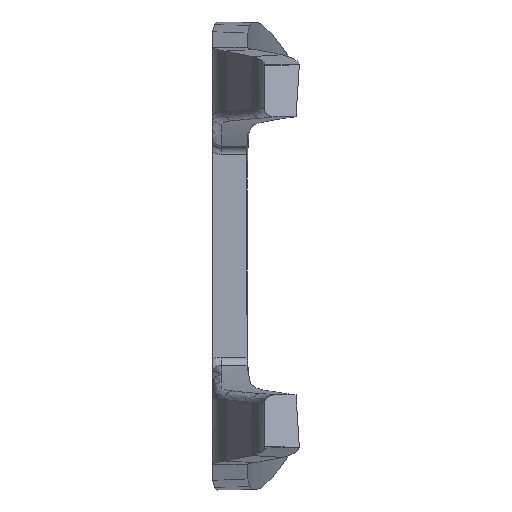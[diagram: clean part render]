
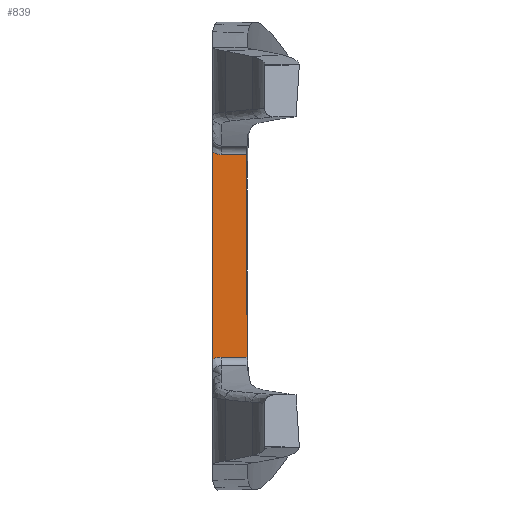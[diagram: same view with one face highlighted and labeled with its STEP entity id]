
A CAD part, left-side view. The second image highlights one B-rep face of the part: STEP entity #839.
In plain terms, the highlighted planar face has unit normal (-1, 0, 0).
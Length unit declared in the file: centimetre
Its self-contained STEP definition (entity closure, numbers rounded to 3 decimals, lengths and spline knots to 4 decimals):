
#93=FACE_OUTER_BOUND('',#147,.T.);
#147=EDGE_LOOP('',(#573,#574,#575,#576,#577,#578));
#200=ELLIPSE('',#897,0.2037,0.2);
#201=ELLIPSE('',#899,0.2037,0.2);
#211=LINE('',#1152,#249);
#213=LINE('',#1224,#251);
#214=LINE('',#1227,#252);
#249=VECTOR('',#962,1.);
#251=VECTOR('',#970,1.);
#252=VECTOR('',#973,1.);
#291=B_SPLINE_CURVE_WITH_KNOTS('',3,(#1207,#1208,#1209,#1210,#1211,#1212,
#1213,#1214,#1215,#1216,#1217,#1218,#1219,#1220,#1221,#1222),
 .UNSPECIFIED.,.F.,.F.,(4,3,3,3,3,4),(0.0801,0.6438,
1.3695,1.3715,2.099,2.6551),
 .UNSPECIFIED.);
#349=VERTEX_POINT('',#1136);
#351=VERTEX_POINT('',#1151);
#353=VERTEX_POINT('',#1186);
#355=VERTEX_POINT('',#1206);
#356=VERTEX_POINT('',#1223);
#357=VERTEX_POINT('',#1225);
#432=EDGE_CURVE('',#349,#351,#211,.T.);
#437=EDGE_CURVE('',#351,#353,#200,.T.);
#438=EDGE_CURVE('',#355,#349,#291,.T.);
#439=EDGE_CURVE('',#356,#355,#213,.T.);
#440=EDGE_CURVE('',#357,#356,#201,.T.);
#441=EDGE_CURVE('',#353,#357,#214,.T.);
#573=ORIENTED_EDGE('',*,*,#438,.F.);
#574=ORIENTED_EDGE('',*,*,#439,.F.);
#575=ORIENTED_EDGE('',*,*,#440,.F.);
#576=ORIENTED_EDGE('',*,*,#441,.F.);
#577=ORIENTED_EDGE('',*,*,#437,.F.);
#578=ORIENTED_EDGE('',*,*,#432,.F.);
#829=PLANE('',#898);
#839=ADVANCED_FACE('',(#93),#829,.F.);
#897=AXIS2_PLACEMENT_3D('',#1204,#966,#967);
#898=AXIS2_PLACEMENT_3D('',#1205,#968,#969);
#899=AXIS2_PLACEMENT_3D('',#1226,#971,#972);
#962=DIRECTION('',(0.,1.,0.));
#966=DIRECTION('center_axis',(-1.,0.,0.));
#967=DIRECTION('ref_axis',(0.,0.001,-1.));
#968=DIRECTION('center_axis',(1.,0.,0.));
#969=DIRECTION('ref_axis',(0.,0.,1.));
#970=DIRECTION('',(0.,-1.,0.));
#971=DIRECTION('center_axis',(-1.,0.,0.));
#972=DIRECTION('ref_axis',(0.,-0.001,-1.));
#973=DIRECTION('',(0.,0.,1.));
#1136=CARTESIAN_POINT('',(0.6,4.604,-1.1677));
#1151=CARTESIAN_POINT('',(0.6,4.9,-1.1677));
#1152=CARTESIAN_POINT('',(0.6,5.,-1.1677));
#1186=CARTESIAN_POINT('',(0.6,5.,-1.1949));
#1204=CARTESIAN_POINT('Origin',(0.6,4.9,-1.3714));
#1205=CARTESIAN_POINT('Origin',(0.6,5.,-1.25));
#1206=CARTESIAN_POINT('',(0.6,4.6042,1.1677));
#1207=CARTESIAN_POINT('Ctrl Pts',(0.6,4.6043,1.1677));
#1208=CARTESIAN_POINT('Ctrl Pts',(0.6001,4.6049,0.9883));
#1209=CARTESIAN_POINT('Ctrl Pts',(0.6,4.6047,0.8367));
#1210=CARTESIAN_POINT('Ctrl Pts',(0.6,4.6043,0.6818));
#1211=CARTESIAN_POINT('Ctrl Pts',(0.5999,4.6038,0.4823));
#1212=CARTESIAN_POINT('Ctrl Pts',(0.6,4.603,0.2771));
#1213=CARTESIAN_POINT('Ctrl Pts',(0.6,4.603,0.));
#1214=CARTESIAN_POINT('Ctrl Pts',(0.6,4.603,-0.0007));
#1215=CARTESIAN_POINT('Ctrl Pts',(0.6,4.603,-0.0015));
#1216=CARTESIAN_POINT('Ctrl Pts',(0.6,4.603,-0.0022));
#1217=CARTESIAN_POINT('Ctrl Pts',(0.6,4.603,-0.2795));
#1218=CARTESIAN_POINT('Ctrl Pts',(0.6,4.6037,-0.4854));
#1219=CARTESIAN_POINT('Ctrl Pts',(0.6,4.6042,-0.6861));
#1220=CARTESIAN_POINT('Ctrl Pts',(0.6001,4.6045,-0.8396));
#1221=CARTESIAN_POINT('Ctrl Pts',(0.6001,4.6046,-0.9901));
#1222=CARTESIAN_POINT('Ctrl Pts',(0.6,4.604,-1.1677));
#1223=CARTESIAN_POINT('',(0.6,4.9,1.1677));
#1224=CARTESIAN_POINT('',(0.6,5.,1.1677));
#1225=CARTESIAN_POINT('',(0.6,5.,1.1949));
#1226=CARTESIAN_POINT('Origin',(0.6,4.9,1.3714));
#1227=CARTESIAN_POINT('',(0.6,5.,-0.1278));
